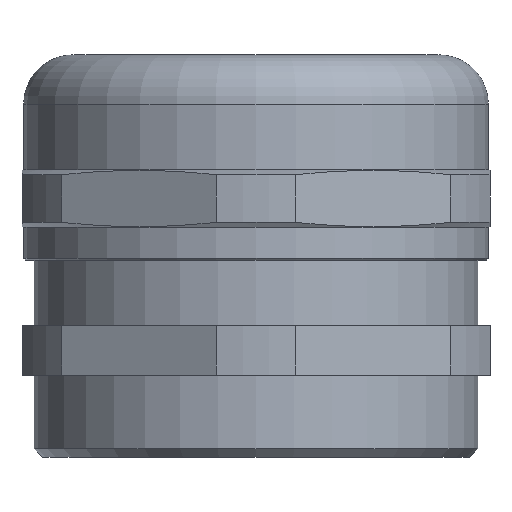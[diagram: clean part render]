
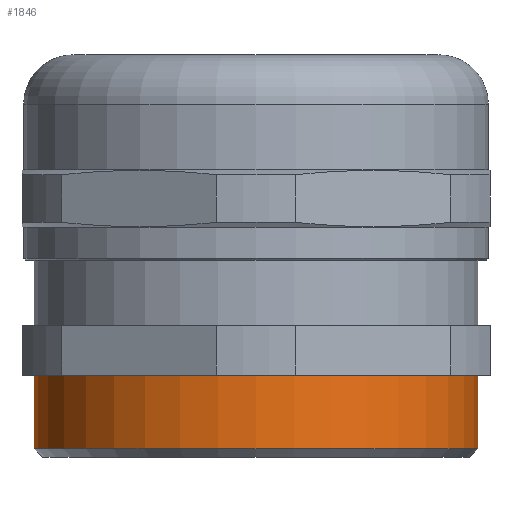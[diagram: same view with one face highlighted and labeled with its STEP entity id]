
A CAD part, front view. The second image highlights one B-rep face of the part: STEP entity #1846.
In plain terms, the highlighted cylindrical face has radius 27 mm (diameter 54 mm), a partial arc.
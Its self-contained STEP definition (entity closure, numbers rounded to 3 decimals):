
#165 = DIRECTION ( 'NONE',  ( 0., 0., -1. ) ) ;
#175 = CIRCLE ( 'NONE', #250, 27. ) ;
#180 = DIRECTION ( 'NONE',  ( -1., 0., 0. ) ) ;
#247 = CARTESIAN_POINT ( 'NONE',  ( 0., 0., 1. ) ) ;
#250 = AXIS2_PLACEMENT_3D ( 'NONE', #247, #165, #180 ) ;
#350 = DIRECTION ( 'NONE',  ( -1., 0., 0. ) ) ;
#351 = DIRECTION ( 'NONE',  ( 0., 0., -1. ) ) ;
#352 = CARTESIAN_POINT ( 'NONE',  ( 0., 0., 10. ) ) ;
#353 = AXIS2_PLACEMENT_3D ( 'NONE', #352, #351, #350 ) ;
#354 = CIRCLE ( 'NONE', #353, 27. ) ;
#376 = CYLINDRICAL_SURFACE ( 'NONE', #395, 27. ) ;
#386 = DIRECTION ( 'NONE',  ( 0., 0., -1. ) ) ;
#395 = AXIS2_PLACEMENT_3D ( 'NONE', #396, #386, #408 ) ;
#396 = CARTESIAN_POINT ( 'NONE',  ( 0., 0., 0. ) ) ;
#408 = DIRECTION ( 'NONE',  ( -1., 0., 0. ) ) ;
#436 = FACE_OUTER_BOUND ( 'NONE', #1825, .T. ) ;
#1379 = VERTEX_POINT ( 'NONE', #2743 ) ;
#1380 = VERTEX_POINT ( 'NONE', #2742 ) ;
#1384 = VERTEX_POINT ( 'NONE', #2735 ) ;
#1385 = VERTEX_POINT ( 'NONE', #2734 ) ;
#1392 = EDGE_CURVE ( 'NONE', #1385, #1384, #2690, .T. ) ;
#1395 = EDGE_CURVE ( 'NONE', #1379, #1380, #2684, .T. ) ;
#1825 = EDGE_LOOP ( 'NONE', ( #1827, #1828, #1835, #1836 ) ) ;
#1827 = ORIENTED_EDGE ( 'NONE', *, *, #1395, .F. ) ;
#1828 = ORIENTED_EDGE ( 'NONE', *, *, #1831, .T. ) ;
#1831 = EDGE_CURVE ( 'NONE', #1379, #1385, #354, .T. ) ;
#1835 = ORIENTED_EDGE ( 'NONE', *, *, #1392, .T. ) ;
#1836 = ORIENTED_EDGE ( 'NONE', *, *, #1843, .F. ) ;
#1843 = EDGE_CURVE ( 'NONE', #1380, #1384, #175, .T. ) ;
#1846 = ADVANCED_FACE ( 'NONE', ( #436 ), #376, .T. ) ;
#2677 = DIRECTION ( 'NONE',  ( 0., 0., -1. ) ) ;
#2678 = VECTOR ( 'NONE', #2677, 1000. ) ;
#2679 = CARTESIAN_POINT ( 'NONE',  ( 27., 0., 0. ) ) ;
#2684 = LINE ( 'NONE', #2679, #2678 ) ;
#2687 = DIRECTION ( 'NONE',  ( 0., 0., -1. ) ) ;
#2688 = VECTOR ( 'NONE', #2687, 1000. ) ;
#2689 = CARTESIAN_POINT ( 'NONE',  ( -27., 0., 0. ) ) ;
#2690 = LINE ( 'NONE', #2689, #2688 ) ;
#2734 = CARTESIAN_POINT ( 'NONE',  ( -27., 0., 10. ) ) ;
#2735 = CARTESIAN_POINT ( 'NONE',  ( -27., 0., 1. ) ) ;
#2742 = CARTESIAN_POINT ( 'NONE',  ( 27., 0., 1. ) ) ;
#2743 = CARTESIAN_POINT ( 'NONE',  ( 27., 0., 10. ) ) ;
